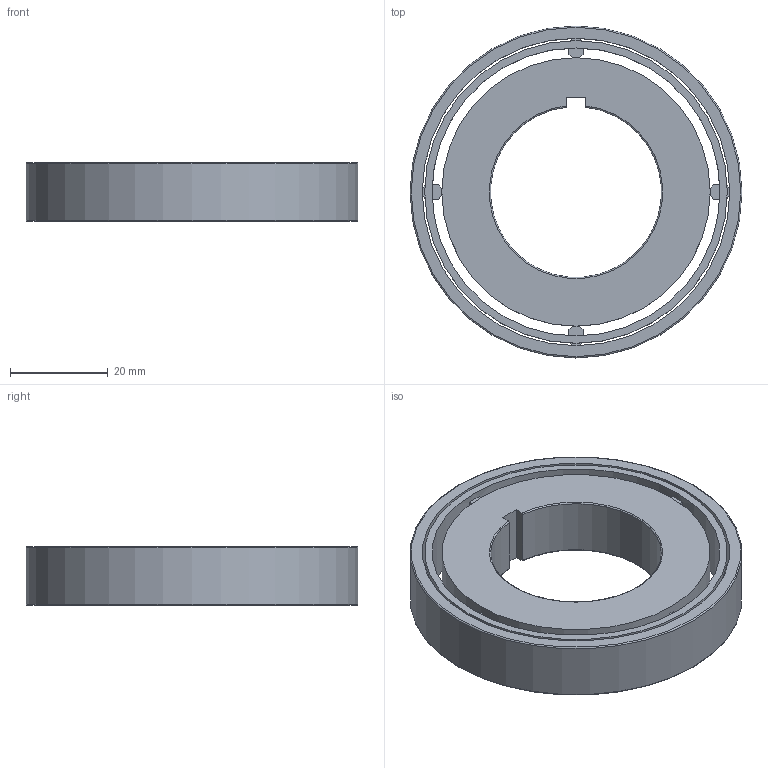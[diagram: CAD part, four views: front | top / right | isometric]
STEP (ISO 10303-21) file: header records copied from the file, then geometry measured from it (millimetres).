
FILE_DESCRIPTION(/* description */ (''),/* implementation_level */ '2;1');
FILE_NAME(/* name */ '300642 FRN 463 Z.stp',/* time_stamp */ '2016-11-03T17:23:43+01:00',/* author */ (''),/* organization */ (''),/* preprocessor_version */ 'ST-DEVELOPER v15',/* originating_system */ 'SIEMENS PLM Software NX 8.5',/* authorisation */ '');
FILE_SCHEMA (('CONFIG_CONTROL_DESIGN'));
Length unit declared in the file: millimetre
Products named in the file (2): ATE0000080_01; ATE0000085_01
Assembly tree (1 placements, depth 2):
  ATE0000085_01
    ATE0000080_01
Bounding box: 68 x 68 x 12 mm (x, y, z)
Volume: 25771.8 mm3; surface area: 17654.3 mm2
Topology: 3 solids, 3 shells, 63 faces, 145 edges, 96 vertices
Faces by surface type: plane 43, cylinder 16, torus 4
Full cylindrical faces by diameter (mm): 55 x1, 59 x1, 61 x1, 62 x2, 63 x1, 68 x1
Entity records: 1973 total; most frequent: CARTESIAN_POINT 359, DIRECTION 308, ORIENTED_EDGE 260, EDGE_CURVE 130, AXIS2_PLACEMENT_3D 117, VERTEX_POINT 92, EDGE_LOOP 88, LINE 74
